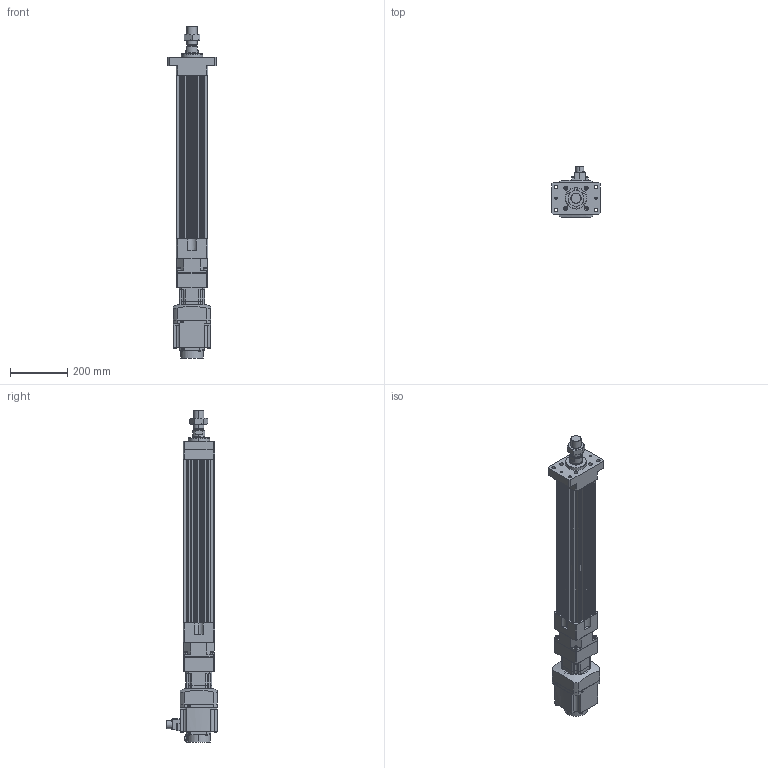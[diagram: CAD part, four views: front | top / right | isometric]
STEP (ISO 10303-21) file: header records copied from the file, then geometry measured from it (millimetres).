
FILE_DESCRIPTION (( 'STEP AP203' ), '1' );
FILE_NAME ('HES110NS(HS)-S400-W010G00-M-FM.STEP', '2023-01-27T07:22:11', ( 'tms' ), ( '' ), 'SwSTEP 2.0', 'SolidWorks 2013', '' );
FILE_SCHEMA (( 'CONFIG_CONTROL_DESIGN' ));
Length unit declared in the file: millimetre
Products named in the file (8): HG-SR102; HES110 ROD M ST400; P0401301004; M36X1.5P; HES110-S400-G090-FM; HES110NS(HS)-S400-W010G00-M-FM; AB0901; AB090-003[HG-SR102B]
Assembly tree (7 placements, depth 3):
  HES110NS(HS)-S400-W010G00-M-FM
    HES110-S400-G090-FM
    HES110 ROD M ST400
    M36X1.5P
    AB090-003[HG-SR102B]
      AB0901
      P0401301004
    HG-SR102
Bounding box: 170 x 177.49 x 1158.5 mm (x, y, z)
Volume: 7605846.4 mm3; surface area: 1021703.1 mm2
Topology: 4 solids, 15 shells, 1165 faces, 2950 edges, 1921 vertices
Faces by surface type: plane 558, cylinder 523, cone 72, bspline 8, torus 4
Entity records: 37081 total; most frequent: CARTESIAN_POINT 7224, DIRECTION 6367, ORIENTED_EDGE 5848, EDGE_CURVE 2934, AXIS2_PLACEMENT_3D 2335, VERTEX_POINT 1921, LINE 1697, VECTOR 1697
